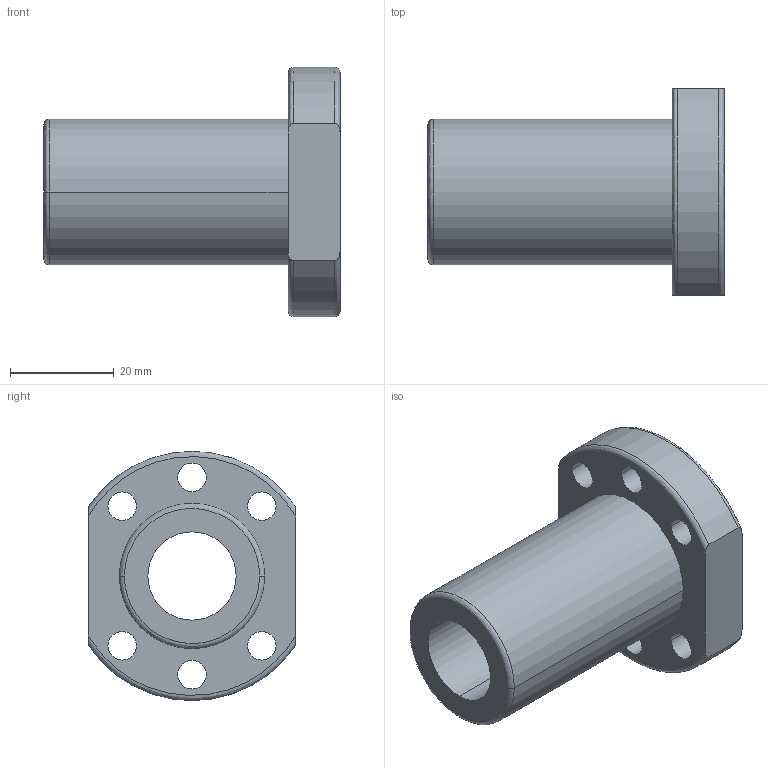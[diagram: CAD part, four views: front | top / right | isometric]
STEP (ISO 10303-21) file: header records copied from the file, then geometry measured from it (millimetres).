
FILE_DESCRIPTION (( 'STEP AP214' ), '1' );
FILE_NAME ('2.3013 Kuularuuvimutteri SFU1610-3.STEP', '2024-05-02T08:18:05', ( '' ), ( '' ), 'SwSTEP 2.0', 'SolidWorks 2024', '' );
FILE_SCHEMA (( 'AUTOMOTIVE_DESIGN' ));
Length unit declared in the file: millimetre
Products named in the file (1): 2.3013 Kuularuuvimutteri SFU1610-3
Bounding box: 57 x 40 x 48 mm (x, y, z)
Volume: 31172.5 mm3; surface area: 12951.4 mm2
Topology: 2 solids, 2 shells, 38 faces, 94 edges, 62 vertices
Faces by surface type: cylinder 24, plane 8, bspline 6
Entity records: 1708 total; most frequent: CARTESIAN_POINT 677, DIRECTION 196, ORIENTED_EDGE 188, EDGE_CURVE 94, AXIS2_PLACEMENT_3D 83, VERTEX_POINT 62, EDGE_LOOP 56, CIRCLE 50
